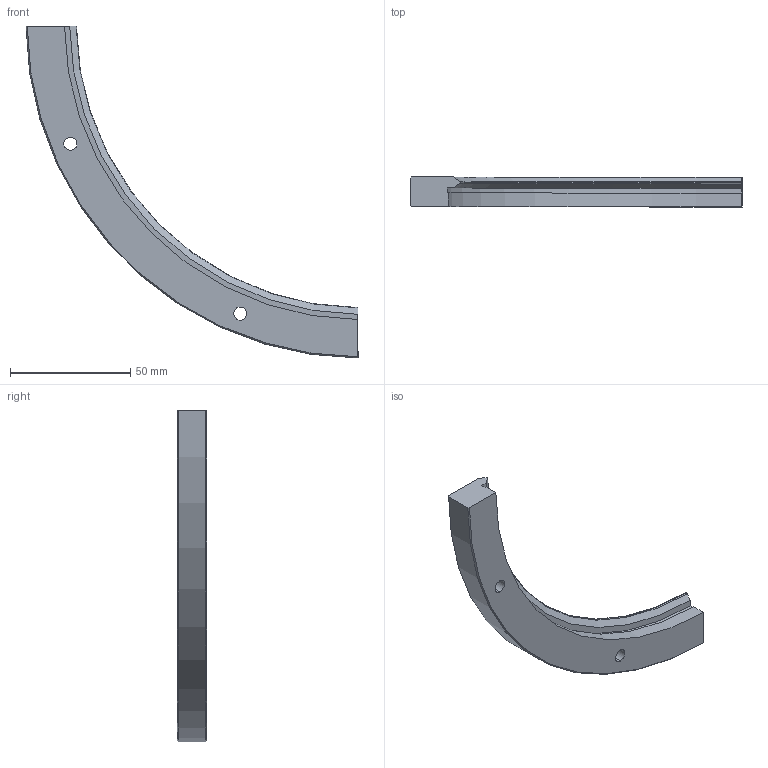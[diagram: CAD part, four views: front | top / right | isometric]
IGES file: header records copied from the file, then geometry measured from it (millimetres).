
Start section: 3D InterOp IGES (v. 2020 1.0.1), Spatial Corp. Copyright (c) 1999-2017.
Global section: file name: ris_278_r90.igs; native system: Spatial Corp.; preprocessor: 3D InterOp ACIS/IGES; author: TraceParts; organization: TraceParts S.A.; date: 20220624.060659; units: millimetre
Bounding box: 138 x 12.25 x 138 mm (x, y, z)
Surface area: 13826.6 mm2 (no closed solid volume)
Topology: 0 solids, 0 shells, 25 faces, 126 edges, 126 vertices
Faces by surface type: revolution 17, extrusion 8
